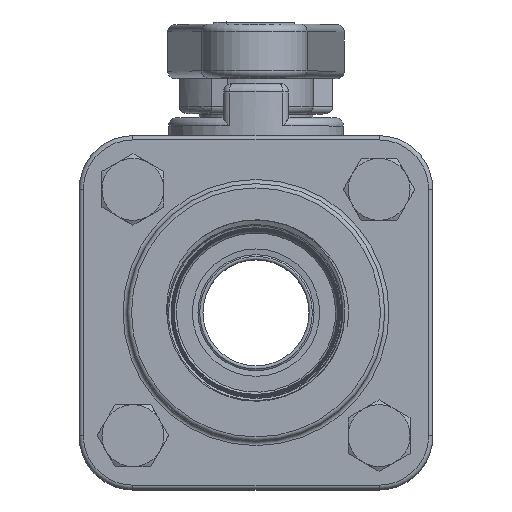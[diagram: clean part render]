
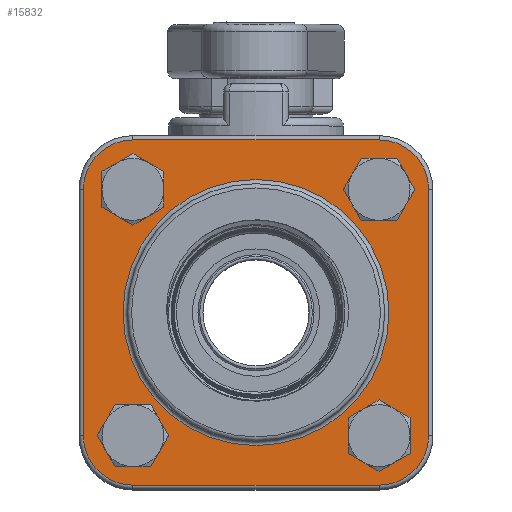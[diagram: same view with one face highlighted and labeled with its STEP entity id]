
A CAD part, top view. The second image highlights one B-rep face of the part: STEP entity #15832.
In plain terms, the highlighted planar face has unit normal (0, 0, 1) as drawn and (0, 0, -1) by its records, which use the part's own axes.
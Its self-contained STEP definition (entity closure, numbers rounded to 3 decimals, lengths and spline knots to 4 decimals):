
#2120=PLANE('',#8267);
#2792=VECTOR('',#7193,1.);
#2794=VECTOR('',#7215,1.);
#2797=VECTOR('',#7222,1.);
#2799=VECTOR('',#7240,1.);
#3503=LINE('',#32885,#2792);
#3505=LINE('',#32906,#2794);
#3508=LINE('',#32913,#2797);
#3510=LINE('',#32928,#2799);
#5184=VERTEX_POINT('',#32884);
#5185=VERTEX_POINT('',#32886);
#5188=VERTEX_POINT('',#32893);
#5189=VERTEX_POINT('',#32898);
#5192=VERTEX_POINT('',#32905);
#5193=VERTEX_POINT('',#32910);
#5196=VERTEX_POINT('',#32917);
#5197=VERTEX_POINT('',#32922);
#5204=VERTEX_POINT('',#32949);
#5205=VERTEX_POINT('',#32951);
#5206=VERTEX_POINT('',#32953);
#5207=VERTEX_POINT('',#32955);
#5208=VERTEX_POINT('',#32957);
#7193=DIRECTION('',(0.,-1.,0.));
#7200=DIRECTION('',(0.,0.,1.));
#7201=DIRECTION('',(-0.629,0.629,0.));
#7209=DIRECTION('',(0.,0.,1.));
#7210=DIRECTION('',(-0.629,-0.629,0.));
#7215=DIRECTION('',(-1.,0.,0.));
#7222=DIRECTION('',(1.,0.,0.));
#7226=DIRECTION('',(0.,0.,1.));
#7227=DIRECTION('',(0.629,0.629,0.));
#7235=DIRECTION('',(0.,0.,1.));
#7236=DIRECTION('',(0.629,-0.629,0.));
#7240=DIRECTION('',(0.,1.,0.));
#7258=DIRECTION('',(0.,0.,1.));
#7259=DIRECTION('',(0.,0.,-1.));
#7260=DIRECTION('',(2.388,0.,0.));
#7261=DIRECTION('',(0.,0.,1.));
#7262=DIRECTION('',(0.33,0.,0.));
#7263=DIRECTION('',(0.,0.,1.));
#7264=DIRECTION('',(0.33,0.,0.));
#7265=DIRECTION('',(0.,0.,1.));
#7266=DIRECTION('',(0.33,0.,0.));
#7267=DIRECTION('',(0.,0.,1.));
#7268=DIRECTION('',(0.33,0.,0.));
#8242=AXIS2_PLACEMENT_3D('',#32894,#7200,#7201);
#8247=AXIS2_PLACEMENT_3D('',#32901,#7209,#7210);
#8254=AXIS2_PLACEMENT_3D('',#32918,#7226,#7227);
#8259=AXIS2_PLACEMENT_3D('',#32925,#7235,#7236);
#8267=AXIS2_PLACEMENT_3D('',#32947,#7258,$);
#8268=AXIS2_PLACEMENT_3D('',#32948,#7259,#7260);
#8269=AXIS2_PLACEMENT_3D('',#32950,#7261,#7262);
#8270=AXIS2_PLACEMENT_3D('',#32952,#7263,#7264);
#8271=AXIS2_PLACEMENT_3D('',#32954,#7265,#7266);
#8272=AXIS2_PLACEMENT_3D('',#32956,#7267,#7268);
#8673=CIRCLE('',#8242,0.889);
#8677=CIRCLE('',#8247,0.889);
#8681=CIRCLE('',#8254,0.889);
#8685=CIRCLE('',#8259,0.889);
#8688=CIRCLE('',#8268,2.3876);
#8689=CIRCLE('',#8269,0.3302);
#8690=CIRCLE('',#8270,0.3302);
#8691=CIRCLE('',#8271,0.3302);
#8692=CIRCLE('',#8272,0.3302);
#10235=EDGE_CURVE('',#5184,#5185,#3503,.T.);
#10239=EDGE_CURVE('',#5188,#5184,#8673,.T.);
#10243=EDGE_CURVE('',#5185,#5189,#8677,.T.);
#10245=EDGE_CURVE('',#5192,#5188,#3505,.T.);
#10249=EDGE_CURVE('',#5189,#5193,#3508,.T.);
#10251=EDGE_CURVE('',#5196,#5192,#8681,.T.);
#10255=EDGE_CURVE('',#5193,#5197,#8685,.T.);
#10257=EDGE_CURVE('',#5197,#5196,#3510,.T.);
#10267=EDGE_CURVE('',#5204,#5204,#8688,.T.);
#10268=EDGE_CURVE('',#5205,#5205,#8689,.T.);
#10269=EDGE_CURVE('',#5206,#5206,#8690,.T.);
#10270=EDGE_CURVE('',#5207,#5207,#8691,.T.);
#10271=EDGE_CURVE('',#5208,#5208,#8692,.T.);
#13471=ORIENTED_EDGE('',*,*,#10267,.F.);
#13472=ORIENTED_EDGE('',*,*,#10268,.T.);
#13473=ORIENTED_EDGE('',*,*,#10269,.T.);
#13474=ORIENTED_EDGE('',*,*,#10270,.T.);
#13475=ORIENTED_EDGE('',*,*,#10271,.T.);
#13476=ORIENTED_EDGE('',*,*,#10235,.F.);
#13477=ORIENTED_EDGE('',*,*,#10239,.F.);
#13478=ORIENTED_EDGE('',*,*,#10245,.F.);
#13479=ORIENTED_EDGE('',*,*,#10251,.F.);
#13480=ORIENTED_EDGE('',*,*,#10257,.F.);
#13481=ORIENTED_EDGE('',*,*,#10255,.F.);
#13482=ORIENTED_EDGE('',*,*,#10249,.F.);
#13483=ORIENTED_EDGE('',*,*,#10243,.F.);
#14395=EDGE_LOOP('',(#13471));
#14396=EDGE_LOOP('',(#13472));
#14397=EDGE_LOOP('',(#13473));
#14398=EDGE_LOOP('',(#13474));
#14399=EDGE_LOOP('',(#13475));
#14400=EDGE_LOOP('',(#13476,#13477,#13478,#13479,#13480,#13481,#13482,#13483));
#15148=FACE_BOUND('',#14395,.T.);
#15149=FACE_BOUND('',#14396,.T.);
#15150=FACE_BOUND('',#14397,.T.);
#15151=FACE_BOUND('',#14398,.T.);
#15152=FACE_BOUND('',#14399,.T.);
#15153=FACE_BOUND('',#14400,.T.);
#15832=ADVANCED_FACE('',(#15148,#15149,#15150,#15151,#15152,#15153),#2120,
 .F.);
#32884=CARTESIAN_POINT('',(-3.0988,2.2098,0.));
#32885=CARTESIAN_POINT('',(-3.0988,0.,0.));
#32886=CARTESIAN_POINT('',(-3.0988,-2.2098,0.));
#32893=CARTESIAN_POINT('',(-2.2098,3.0988,0.));
#32894=CARTESIAN_POINT('',(-2.2098,2.2098,0.));
#32898=CARTESIAN_POINT('',(-2.2098,-3.0988,0.));
#32901=CARTESIAN_POINT('',(-2.2098,-2.2098,0.));
#32905=CARTESIAN_POINT('',(2.2098,3.0988,0.));
#32906=CARTESIAN_POINT('',(0.,3.0988,0.));
#32910=CARTESIAN_POINT('',(2.2098,-3.0988,0.));
#32913=CARTESIAN_POINT('',(0.,-3.0988,0.));
#32917=CARTESIAN_POINT('',(3.0988,2.2098,0.));
#32918=CARTESIAN_POINT('',(2.2098,2.2098,0.));
#32922=CARTESIAN_POINT('',(3.0988,-2.2098,0.));
#32925=CARTESIAN_POINT('',(2.2098,-2.2098,0.));
#32928=CARTESIAN_POINT('',(3.0988,0.,0.));
#32947=CARTESIAN_POINT('',(0.,0.,0.));
#32948=CARTESIAN_POINT('',(0.,0.,0.));
#32949=CARTESIAN_POINT('',(-2.3876,0.,0.));
#32950=CARTESIAN_POINT('',(2.2098,-2.2098,0.));
#32951=CARTESIAN_POINT('',(2.54,-2.2098,0.));
#32952=CARTESIAN_POINT('',(2.2098,2.2098,0.));
#32953=CARTESIAN_POINT('',(2.54,2.2098,0.));
#32954=CARTESIAN_POINT('',(-2.2098,2.2098,0.));
#32955=CARTESIAN_POINT('',(-1.8796,2.2098,0.));
#32956=CARTESIAN_POINT('',(-2.2098,-2.2098,0.));
#32957=CARTESIAN_POINT('',(-1.8796,-2.2098,0.));
